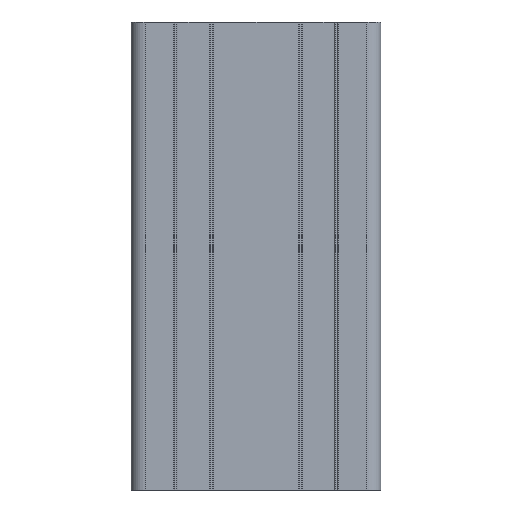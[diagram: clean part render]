
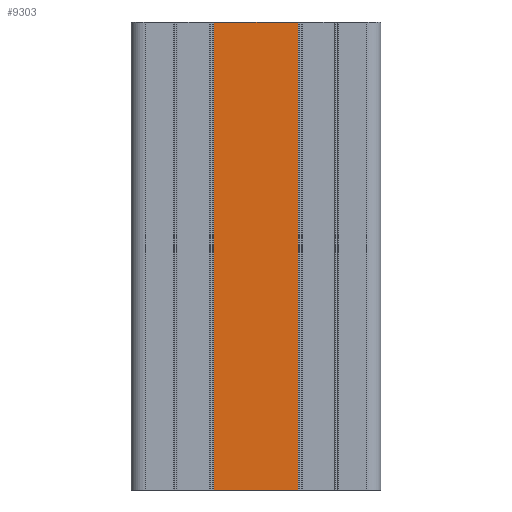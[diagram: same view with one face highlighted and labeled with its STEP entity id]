
A CAD part, front view. The second image highlights one B-rep face of the part: STEP entity #9303.
In plain terms, the highlighted planar face has unit normal (0, -1, 0).
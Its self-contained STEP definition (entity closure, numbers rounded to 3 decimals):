
#2981=CARTESIAN_POINT('',(-13.6,-20.,150.0));
#2982=VERTEX_POINT('',#2981);
#3000=CARTESIAN_POINT('',(-13.6,-20.,0.0));
#3001=VERTEX_POINT('',#3000);
#3009=CARTESIAN_POINT('',(-13.6,-20.,0.0));
#3010=DIRECTION('',(0.0,0.0,1.0));
#3011=VECTOR('',#3010,150.0);
#3012=LINE('',#3009,#3011);
#3013=EDGE_CURVE('',#3001,#2982,#3012,.T.);
#9254=CARTESIAN_POINT('',(13.6,-20.,150.0));
#9255=VERTEX_POINT('',#9254);
#9263=CARTESIAN_POINT('',(13.6,-20.,0.0));
#9264=VERTEX_POINT('',#9263);
#9265=CARTESIAN_POINT('',(13.6,-20.,0.0));
#9266=DIRECTION('',(0.0,0.0,1.0));
#9267=VECTOR('',#9266,150.0);
#9268=LINE('',#9265,#9267);
#9269=EDGE_CURVE('',#9264,#9255,#9268,.T.);
#9282=CARTESIAN_POINT('',(0.,-20.,0.0));
#9283=DIRECTION('',(0.0,-1.0,0.0));
#9284=DIRECTION('',(0.0,0.0,-1.0));
#9285=AXIS2_PLACEMENT_3D('',#9282,#9283,#9284);
#9286=PLANE('',#9285);
#9287=CARTESIAN_POINT('',(13.6,-20.,150.0));
#9288=DIRECTION('',(-1.0,0.0,0.0));
#9289=VECTOR('',#9288,27.2);
#9290=LINE('',#9287,#9289);
#9291=EDGE_CURVE('',#9255,#2982,#9290,.T.);
#9292=ORIENTED_EDGE('',*,*,#9291,.T.);
#9293=ORIENTED_EDGE('',*,*,#3013,.F.);
#9294=CARTESIAN_POINT('',(-13.6,-20.,0.0));
#9295=DIRECTION('',(1.0,0.0,0.0));
#9296=VECTOR('',#9295,27.2);
#9297=LINE('',#9294,#9296);
#9298=EDGE_CURVE('',#3001,#9264,#9297,.T.);
#9299=ORIENTED_EDGE('',*,*,#9298,.T.);
#9300=ORIENTED_EDGE('',*,*,#9269,.T.);
#9301=EDGE_LOOP('',(#9292,#9293,#9299,#9300));
#9302=FACE_OUTER_BOUND('',#9301,.T.);
#9303=ADVANCED_FACE('',(#9302),#9286,.T.);
